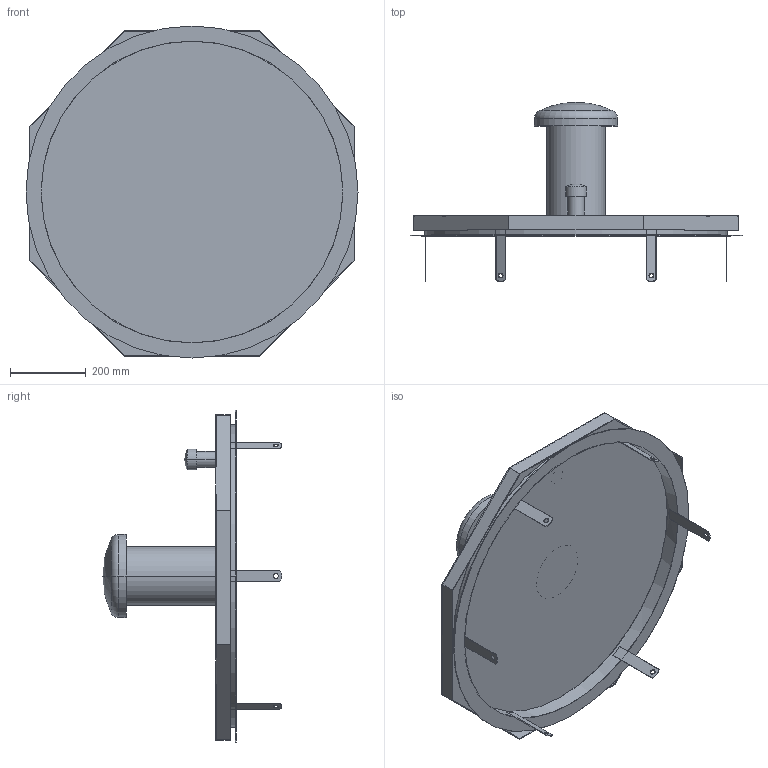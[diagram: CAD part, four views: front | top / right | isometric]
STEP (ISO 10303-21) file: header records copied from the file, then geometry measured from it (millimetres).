
FILE_DESCRIPTION((''),'2;1');
FILE_NAME('017_000107','2018-09-06T',('wj'),('HUBER SE'),'PRO/ENGINEER BY PARAMETRIC TECHNOLOGY CORPORATION, 2017170','PRO/ENGINEER BY PARAMETRIC TECHNOLOGY CORPORATION, 2017170','');
FILE_SCHEMA(('AUTOMOTIVE_DESIGN { 1 0 10303 214 1 1 1 1 }'));
Length unit declared in the file: millimetre
Products named in the file (1): 017_000107
Bounding box: 875 x 472 x 875 mm (x, y, z)
Volume: 8200198.7 mm3; surface area: 2080251.5 mm2
Topology: 2 solids, 2 shells, 92 faces, 246 edges, 160 vertices
Faces by surface type: plane 54, cylinder 32, sphere 4, torus 2
Entity records: 3487 total; most frequent: DIRECTION 523, CARTESIAN_POINT 505, ORIENTED_EDGE 484, EDGE_CURVE 242, AXIS2_PLACEMENT_3D 181, VERTEX_POINT 160, VECTOR 158, LINE 158
